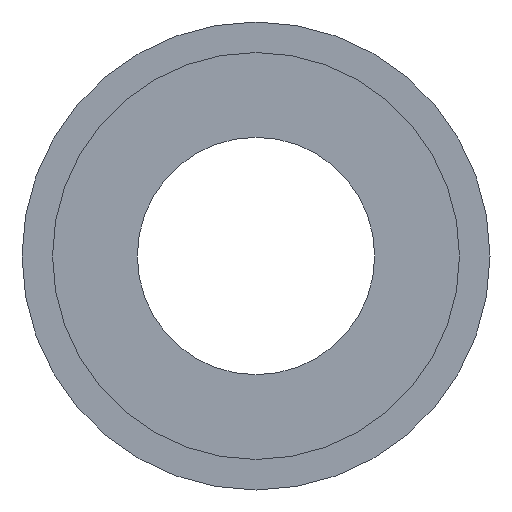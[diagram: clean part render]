
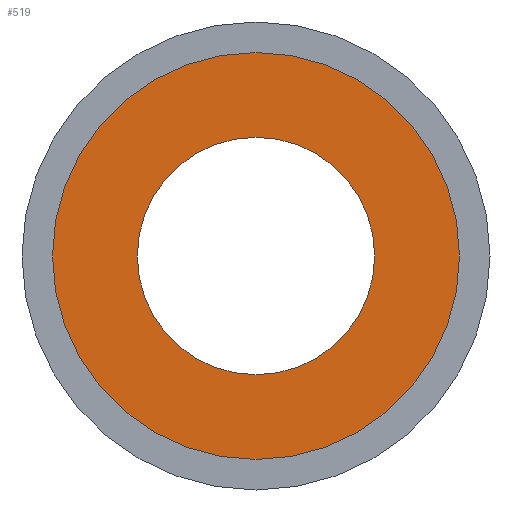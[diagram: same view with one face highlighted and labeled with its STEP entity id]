
A CAD part, front view. The second image highlights one B-rep face of the part: STEP entity #519.
In plain terms, the highlighted planar face has unit normal (0, -1, 0).
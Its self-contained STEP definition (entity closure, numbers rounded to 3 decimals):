
#24 = DIRECTION ( 'NONE',  ( 0., 0., -1. ) ) ;
#279 = CARTESIAN_POINT ( 'NONE',  ( 0., -14., 0. ) ) ;
#410 = CARTESIAN_POINT ( 'NONE',  ( 0., -14., 17.5 ) ) ;
#519 = ADVANCED_FACE ( 'NONE', ( #1481, #2155 ), #980, .F. ) ;
#657 = ORIENTED_EDGE ( 'NONE', *, *, #3341, .F. ) ;
#668 = DIRECTION ( 'NONE',  ( 0., -1., 0. ) ) ;
#849 = AXIS2_PLACEMENT_3D ( 'NONE', #279, #3143, #3114 ) ;
#878 = ORIENTED_EDGE ( 'NONE', *, *, #2586, .F. ) ;
#949 = ORIENTED_EDGE ( 'NONE', *, *, #1046, .T. ) ;
#980 = PLANE ( 'NONE',  #981 ) ;
#981 = AXIS2_PLACEMENT_3D ( 'NONE', #410, #2382, #2956 ) ;
#996 = ORIENTED_EDGE ( 'NONE', *, *, #1159, .T. ) ;
#1046 = EDGE_CURVE ( 'NONE', #2897, #3175, #3153, .T. ) ;
#1054 = DIRECTION ( 'NONE',  ( 0., -1., 0. ) ) ;
#1118 = VERTEX_POINT ( 'NONE', #2598 ) ;
#1159 = EDGE_CURVE ( 'NONE', #3175, #2897, #1482, .T. ) ;
#1216 = EDGE_LOOP ( 'NONE', ( #949, #996 ) ) ;
#1255 = CIRCLE ( 'NONE', #1826, 17.5 ) ;
#1481 = FACE_BOUND ( 'NONE', #3608, .T. ) ;
#1482 = CIRCLE ( 'NONE', #2753, 30. ) ;
#1507 = CARTESIAN_POINT ( 'NONE',  ( 0., -14., 17.5 ) ) ;
#1740 = DIRECTION ( 'NONE',  ( 0., -1., 0. ) ) ;
#1826 = AXIS2_PLACEMENT_3D ( 'NONE', #2758, #1054, #2485 ) ;
#2013 = CARTESIAN_POINT ( 'NONE',  ( 0., -14., 30. ) ) ;
#2155 = FACE_OUTER_BOUND ( 'NONE', #1216, .T. ) ;
#2265 = VERTEX_POINT ( 'NONE', #1507 ) ;
#2382 = DIRECTION ( 'NONE',  ( 0., 1., 0. ) ) ;
#2485 = DIRECTION ( 'NONE',  ( 0., 0., -1. ) ) ;
#2586 = EDGE_CURVE ( 'NONE', #2265, #1118, #1255, .T. ) ;
#2598 = CARTESIAN_POINT ( 'NONE',  ( 0., -14., -17.5 ) ) ;
#2639 = CARTESIAN_POINT ( 'NONE',  ( 0., -14., 0. ) ) ;
#2659 = CARTESIAN_POINT ( 'NONE',  ( 0., -14., -30. ) ) ;
#2679 = DIRECTION ( 'NONE',  ( 0., 0., -1. ) ) ;
#2753 = AXIS2_PLACEMENT_3D ( 'NONE', #2639, #1740, #2679 ) ;
#2758 = CARTESIAN_POINT ( 'NONE',  ( 0., -14., 0. ) ) ;
#2897 = VERTEX_POINT ( 'NONE', #2659 ) ;
#2904 = CARTESIAN_POINT ( 'NONE',  ( 0., -14., 0. ) ) ;
#2956 = DIRECTION ( 'NONE',  ( 0., 0., 1. ) ) ;
#3114 = DIRECTION ( 'NONE',  ( 0., 0., -1. ) ) ;
#3143 = DIRECTION ( 'NONE',  ( 0., -1., 0. ) ) ;
#3153 = CIRCLE ( 'NONE', #849, 30. ) ;
#3175 = VERTEX_POINT ( 'NONE', #2013 ) ;
#3341 = EDGE_CURVE ( 'NONE', #1118, #2265, #3717, .T. ) ;
#3572 = AXIS2_PLACEMENT_3D ( 'NONE', #2904, #668, #24 ) ;
#3608 = EDGE_LOOP ( 'NONE', ( #657, #878 ) ) ;
#3717 = CIRCLE ( 'NONE', #3572, 17.5 ) ;
